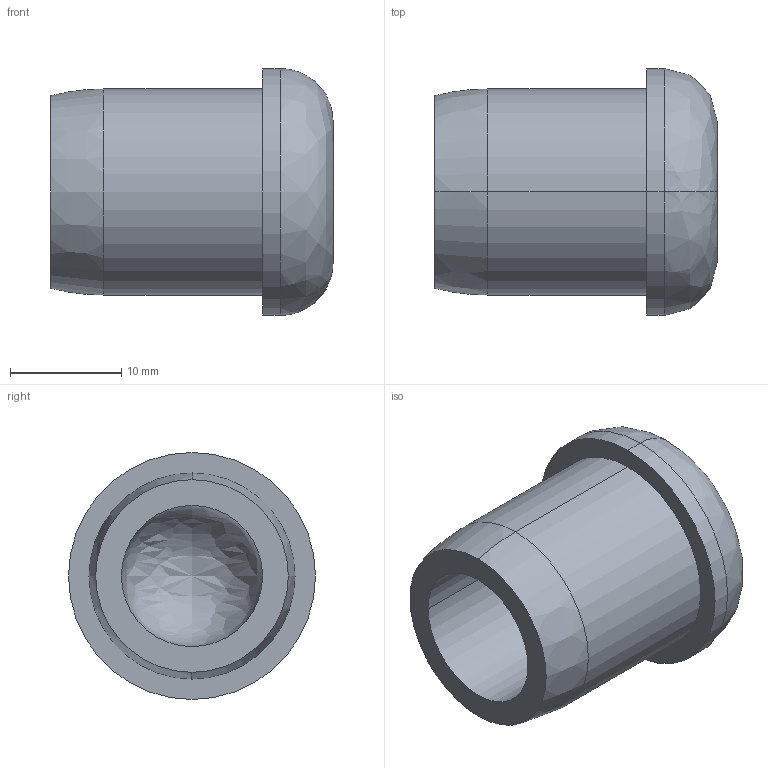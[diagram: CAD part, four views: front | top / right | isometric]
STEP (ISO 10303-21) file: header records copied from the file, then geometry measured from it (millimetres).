
FILE_DESCRIPTION (( 'STEP AP203' ), '1' );
FILE_NAME ('FDPCK-MC.75-END-CAP.step', '2019-09-11T18:31:24', ( 'ydmin' ), ( '' ), 'SwSTEP 2.0', 'SolidWorks 2017', '' );
FILE_SCHEMA (( 'CONFIG_CONTROL_DESIGN' ));
Length unit declared in the file: inch
Products named in the file (1): FDPCK-MC.75-END-CAP
Bounding box: 25.4 x 22.23 x 22.23 mm (x, y, z)
Volume: 5100.7 mm3; surface area: 2772.3 mm2
Topology: 1 solids, 1 shells, 14 faces, 30 edges, 18 vertices
Faces by surface type: cylinder 6, bspline 5, plane 3
Entity records: 510 total; most frequent: CARTESIAN_POINT 142, DIRECTION 66, ORIENTED_EDGE 56, AXIS2_PLACEMENT_3D 30, EDGE_CURVE 28, CIRCLE 20, VERTEX_POINT 18, EDGE_LOOP 16
